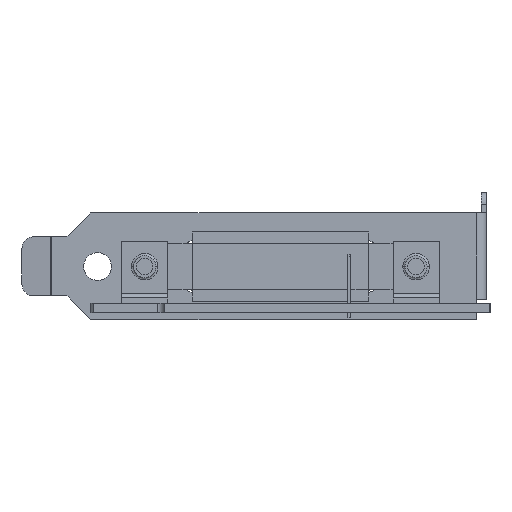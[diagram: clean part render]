
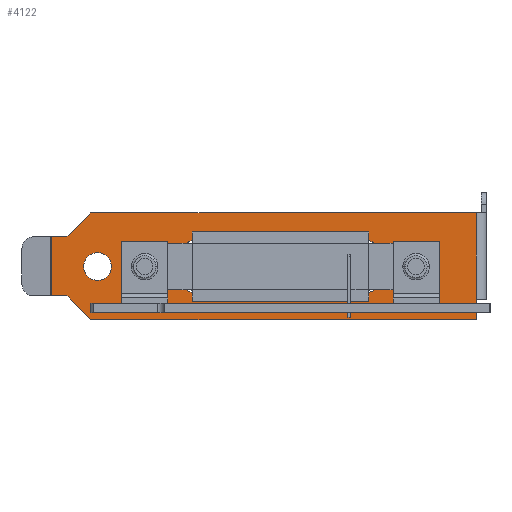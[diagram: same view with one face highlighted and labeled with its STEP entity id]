
A CAD part, left-side view. The second image highlights one B-rep face of the part: STEP entity #4122.
In plain terms, the highlighted planar face has unit normal (-1, 0, 0).
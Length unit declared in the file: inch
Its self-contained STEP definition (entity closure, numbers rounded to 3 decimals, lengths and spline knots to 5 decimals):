
#543=DIRECTION('',(0.,-1.,0.));
#544=VECTOR('',#543,0.28316);
#545=CARTESIAN_POINT('',(0.04938,-0.191,0.4705));
#546=LINE('',#545,#544);
#551=DIRECTION('',(0.,-1.,0.));
#552=VECTOR('',#551,0.28316);
#553=CARTESIAN_POINT('',(0.04938,-1.74984,0.4705));
#554=LINE('',#553,#552);
#563=DIRECTION('',(0.,-0.707,-0.707));
#564=VECTOR('',#563,0.2291);
#565=CARTESIAN_POINT('',(0.04938,0.337,0.1135));
#566=LINE('',#565,#564);
#567=DIRECTION('',(0.,-1.,0.));
#568=VECTOR('',#567,0.104);
#569=CARTESIAN_POINT('',(0.04938,0.441,0.1135));
#570=LINE('',#569,#568);
#571=DIRECTION('',(0.,0.,1.));
#572=VECTOR('',#571,0.401);
#573=CARTESIAN_POINT('',(0.04938,0.441,0.1135));
#574=LINE('',#573,#572);
#575=DIRECTION('',(0.,-1.,0.));
#576=VECTOR('',#575,0.104);
#577=CARTESIAN_POINT('',(0.04938,0.441,0.5145));
#578=LINE('',#577,#576);
#579=DIRECTION('',(0.,0.707,-0.707));
#580=VECTOR('',#579,0.2291);
#581=CARTESIAN_POINT('',(0.04938,0.175,0.6765));
#582=LINE('',#581,#580);
#583=DIRECTION('',(0.,1.,0.));
#584=VECTOR('',#583,2.618);
#585=CARTESIAN_POINT('',(0.04938,-2.443,0.6765));
#586=LINE('',#585,#584);
#587=DIRECTION('',(0.,0.,-1.));
#588=VECTOR('',#587,0.584);
#589=CARTESIAN_POINT('',(0.04938,-2.443,0.6765));
#590=LINE('',#589,#588);
#591=CARTESIAN_POINT('',(0.04938,0.129,0.3125));
#592=DIRECTION('',(1.,0.,0.));
#593=DIRECTION('',(0.,0.,-1.));
#594=AXIS2_PLACEMENT_3D('',#591,#592,#593);
#596=CARTESIAN_POINT('',(0.04938,0.129,0.3125));
#597=DIRECTION('',(1.,0.,0.));
#598=DIRECTION('',(0.,0.,1.));
#599=AXIS2_PLACEMENT_3D('',#596,#597,#598);
#601=CARTESIAN_POINT('',(0.04938,-0.516,0.1975));
#602=DIRECTION('',(1.,0.,0.));
#603=DIRECTION('',(0.,0.,-1.));
#604=AXIS2_PLACEMENT_3D('',#601,#602,#603);
#606=DIRECTION('',(0.,-1.,0.));
#607=VECTOR('',#606,1.192);
#608=CARTESIAN_POINT('',(0.04938,-0.516,0.1375));
#609=LINE('',#608,#607);
#610=CARTESIAN_POINT('',(0.04938,-1.708,0.1975));
#611=DIRECTION('',(1.,0.,0.));
#612=DIRECTION('',(0.,-0.697,-0.717));
#613=AXIS2_PLACEMENT_3D('',#610,#611,#612);
#615=CARTESIAN_POINT('',(0.04938,-1.708,0.4275));
#616=DIRECTION('',(1.,0.,0.));
#617=DIRECTION('',(0.,0.,1.));
#618=AXIS2_PLACEMENT_3D('',#615,#616,#617);
#620=DIRECTION('',(0.,1.,0.));
#621=VECTOR('',#620,1.192);
#622=CARTESIAN_POINT('',(0.04938,-1.708,0.4875));
#623=LINE('',#622,#621);
#624=CARTESIAN_POINT('',(0.04938,-0.516,0.4275));
#625=DIRECTION('',(1.,0.,0.));
#626=DIRECTION('',(0.,0.697,0.717));
#627=AXIS2_PLACEMENT_3D('',#624,#625,#626);
#637=DIRECTION('',(0.,0.,1.));
#638=VECTOR('',#637,0.141);
#639=CARTESIAN_POINT('',(0.04938,-2.443,-0.0485));
#640=LINE('',#639,#638);
#1035=DIRECTION('',(0.,1.,0.));
#1036=VECTOR('',#1035,2.618);
#1037=CARTESIAN_POINT('',(0.04938,-2.443,-0.0485));
#1038=LINE('',#1037,#1036);
#1195=DIRECTION('',(0.,1.,0.));
#1196=VECTOR('',#1195,0.28316);
#1197=CARTESIAN_POINT('',(0.04938,-2.033,0.1545));
#1198=LINE('',#1197,#1196);
#1203=DIRECTION('',(0.,1.,0.));
#1204=VECTOR('',#1203,0.28316);
#1205=CARTESIAN_POINT('',(0.04938,-0.47416,0.1545));
#1206=LINE('',#1205,#1204);
#1215=CARTESIAN_POINT('',(0.04938,-0.191,0.3125));
#1216=DIRECTION('',(1.,0.,0.));
#1217=DIRECTION('',(0.,0.,-1.));
#1218=AXIS2_PLACEMENT_3D('',#1215,#1216,#1217);
#1560=CARTESIAN_POINT('',(0.04938,-2.033,0.3125));
#1561=DIRECTION('',(1.,0.,0.));
#1562=DIRECTION('',(0.,0.,1.));
#1563=AXIS2_PLACEMENT_3D('',#1560,#1561,#1562);
#3127=CARTESIAN_POINT('',(0.04938,0.337,0.1135));
#3128=CARTESIAN_POINT('',(0.04938,0.175,-0.0485));
#3129=VERTEX_POINT('',#3127);
#3130=VERTEX_POINT('',#3128);
#3131=CARTESIAN_POINT('',(0.04938,-2.443,0.6765));
#3132=CARTESIAN_POINT('',(0.04938,0.175,0.6765));
#3133=VERTEX_POINT('',#3131);
#3134=VERTEX_POINT('',#3132);
#3135=CARTESIAN_POINT('',(0.04938,0.337,0.5145));
#3136=VERTEX_POINT('',#3135);
#3191=CARTESIAN_POINT('',(0.04938,0.441,0.1135));
#3192=VERTEX_POINT('',#3191);
#3193=CARTESIAN_POINT('',(0.04938,0.441,0.5145));
#3194=VERTEX_POINT('',#3193);
#3211=CARTESIAN_POINT('',(0.04938,-2.443,0.0925));
#3213=VERTEX_POINT('',#3211);
#3233=CARTESIAN_POINT('',(0.04938,-2.443,-0.0485));
#3234=VERTEX_POINT('',#3233);
#3239=CARTESIAN_POINT('',(0.04938,0.129,0.218));
#3240=CARTESIAN_POINT('',(0.04938,0.129,0.407));
#3241=VERTEX_POINT('',#3239);
#3242=VERTEX_POINT('',#3240);
#3243=CARTESIAN_POINT('',(0.04938,-0.516,0.1375));
#3244=CARTESIAN_POINT('',(0.04938,-1.708,0.1375));
#3245=VERTEX_POINT('',#3243);
#3246=VERTEX_POINT('',#3244);
#3247=CARTESIAN_POINT('',(0.04938,-1.708,0.4875));
#3248=CARTESIAN_POINT('',(0.04938,-0.516,0.4875));
#3249=VERTEX_POINT('',#3247);
#3250=VERTEX_POINT('',#3248);
#3295=CARTESIAN_POINT('',(0.04938,-0.47416,0.1545));
#3296=VERTEX_POINT('',#3295);
#3298=CARTESIAN_POINT('',(0.04938,-1.74984,0.1545));
#3300=VERTEX_POINT('',#3298);
#3303=CARTESIAN_POINT('',(0.04938,-1.74984,0.4705));
#3304=VERTEX_POINT('',#3303);
#3305=CARTESIAN_POINT('',(0.04938,-0.47416,0.4705));
#3306=VERTEX_POINT('',#3305);
#3307=CARTESIAN_POINT('',(0.04938,-0.191,0.1545));
#3308=CARTESIAN_POINT('',(0.04938,-0.191,0.4705));
#3309=VERTEX_POINT('',#3307);
#3310=VERTEX_POINT('',#3308);
#3311=CARTESIAN_POINT('',(0.04938,-2.033,0.4705));
#3312=VERTEX_POINT('',#3311);
#3313=CARTESIAN_POINT('',(0.04938,-2.033,0.1545));
#3314=VERTEX_POINT('',#3313);
#4067=CARTESIAN_POINT('',(0.04938,-2.443,0.8175));
#4068=DIRECTION('',(1.,0.,0.));
#4069=DIRECTION('',(0.,1.,0.));
#4070=AXIS2_PLACEMENT_3D('',#4067,#4068,#4069);
#4071=PLANE('',#4070);
#4073=ORIENTED_EDGE('',*,*,#4072,.F.);
#4075=ORIENTED_EDGE('',*,*,#4074,.T.);
#4077=ORIENTED_EDGE('',*,*,#4076,.F.);
#4079=ORIENTED_EDGE('',*,*,#4078,.F.);
#4081=ORIENTED_EDGE('',*,*,#4080,.T.);
#4083=ORIENTED_EDGE('',*,*,#4082,.T.);
#4085=ORIENTED_EDGE('',*,*,#4084,.F.);
#4087=ORIENTED_EDGE('',*,*,#4086,.F.);
#4089=ORIENTED_EDGE('',*,*,#4088,.T.);
#4090=EDGE_LOOP('',(#4073,#4075,#4077,#4079,#4081,#4083,#4085,#4087,#4089));
#4091=FACE_OUTER_BOUND('',#4090,.F.);
#4093=ORIENTED_EDGE('',*,*,#4092,.F.);
#4095=ORIENTED_EDGE('',*,*,#4094,.F.);
#4096=EDGE_LOOP('',(#4093,#4095));
#4097=FACE_BOUND('',#4096,.F.);
#4099=ORIENTED_EDGE('',*,*,#4098,.F.);
#4101=ORIENTED_EDGE('',*,*,#4100,.F.);
#4103=ORIENTED_EDGE('',*,*,#4102,.F.);
#4105=ORIENTED_EDGE('',*,*,#4104,.T.);
#4107=ORIENTED_EDGE('',*,*,#4106,.F.);
#4109=ORIENTED_EDGE('',*,*,#4108,.F.);
#4111=ORIENTED_EDGE('',*,*,#4110,.F.);
#4112=ORIENTED_EDGE('',*,*,#4049,.F.);
#4114=ORIENTED_EDGE('',*,*,#4113,.F.);
#4116=ORIENTED_EDGE('',*,*,#4115,.T.);
#4118=ORIENTED_EDGE('',*,*,#4117,.F.);
#4119=ORIENTED_EDGE('',*,*,#4041,.F.);
#4120=EDGE_LOOP('',(#4099,#4101,#4103,#4105,#4107,#4109,#4111,#4112,#4114,#4116,
#4118,#4119));
#4121=FACE_BOUND('',#4120,.F.);
#4122=ADVANCED_FACE('',(#4091,#4097,#4121),#4071,.F.);
#595=CIRCLE('',#594,0.0945);
#600=CIRCLE('',#599,0.0945);
#605=CIRCLE('',#604,0.06);
#614=CIRCLE('',#613,0.06);
#619=CIRCLE('',#618,0.06);
#628=CIRCLE('',#627,0.06);
#1219=CIRCLE('',#1218,0.158);
#1564=CIRCLE('',#1563,0.158);
#4041=EDGE_CURVE('',#3310,#3306,#546,.T.);
#4049=EDGE_CURVE('',#3304,#3312,#554,.T.);
#4072=EDGE_CURVE('',#3234,#3213,#640,.T.);
#4074=EDGE_CURVE('',#3234,#3130,#1038,.T.);
#4076=EDGE_CURVE('',#3129,#3130,#566,.T.);
#4078=EDGE_CURVE('',#3192,#3129,#570,.T.);
#4080=EDGE_CURVE('',#3192,#3194,#574,.T.);
#4082=EDGE_CURVE('',#3194,#3136,#578,.T.);
#4084=EDGE_CURVE('',#3134,#3136,#582,.T.);
#4086=EDGE_CURVE('',#3133,#3134,#586,.T.);
#4088=EDGE_CURVE('',#3133,#3213,#590,.T.);
#4092=EDGE_CURVE('',#3241,#3242,#595,.T.);
#4094=EDGE_CURVE('',#3242,#3241,#600,.T.);
#4098=EDGE_CURVE('',#3309,#3310,#1219,.T.);
#4100=EDGE_CURVE('',#3296,#3309,#1206,.T.);
#4102=EDGE_CURVE('',#3245,#3296,#605,.T.);
#4104=EDGE_CURVE('',#3245,#3246,#609,.T.);
#4106=EDGE_CURVE('',#3300,#3246,#614,.T.);
#4108=EDGE_CURVE('',#3314,#3300,#1198,.T.);
#4110=EDGE_CURVE('',#3312,#3314,#1564,.T.);
#4113=EDGE_CURVE('',#3249,#3304,#619,.T.);
#4115=EDGE_CURVE('',#3249,#3250,#623,.T.);
#4117=EDGE_CURVE('',#3306,#3250,#628,.T.);
